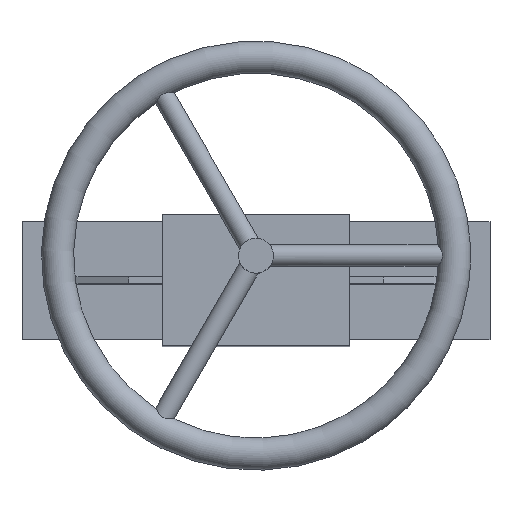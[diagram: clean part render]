
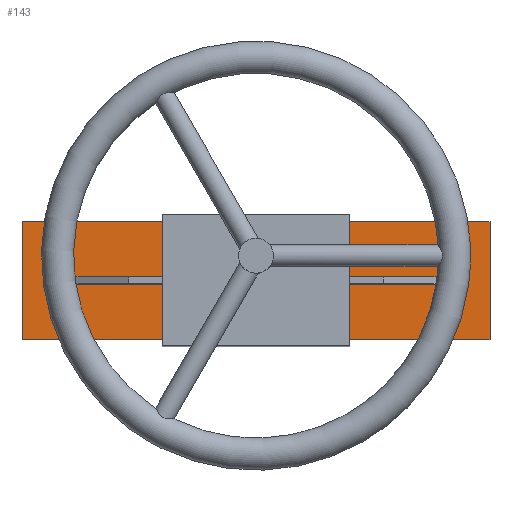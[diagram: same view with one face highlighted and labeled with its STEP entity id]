
A CAD part, top view. The second image highlights one B-rep face of the part: STEP entity #143.
In plain terms, the highlighted planar face has unit normal (0, 0, 1).
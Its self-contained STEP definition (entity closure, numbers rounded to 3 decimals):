
#143=ADVANCED_FACE('',(#1184,#1186,#1188),#1190,.T.);
#1184=FACE_BOUND('',#1185,.T.);
#1185=EDGE_LOOP('',(#2089,#2090,#2091,#2092,#2093,#2094,#2095,#2096));
#1186=FACE_BOUND('',#1187,.T.);
#1187=EDGE_LOOP('',(#2097,#2098,#2099,#2100));
#1188=FACE_BOUND('',#1189,.T.);
#1189=EDGE_LOOP('',(#2101));
#1190=PLANE('',#1191);
#1191=AXIS2_PLACEMENT_3D('',#1192,#1193,#1194);
#1192=CARTESIAN_POINT('',(0.,0.,280.));
#1193=DIRECTION('',(0.,0.,1.));
#1194=DIRECTION('',(1.,0.,0.));
#2089=ORIENTED_EDGE('',*,*,#2631,.F.);
#2090=ORIENTED_EDGE('',*,*,#2632,.T.);
#2091=ORIENTED_EDGE('',*,*,#2633,.T.);
#2092=ORIENTED_EDGE('',*,*,#2634,.T.);
#2093=ORIENTED_EDGE('',*,*,#2635,.F.);
#2094=ORIENTED_EDGE('',*,*,#2636,.T.);
#2095=ORIENTED_EDGE('',*,*,#2637,.T.);
#2096=ORIENTED_EDGE('',*,*,#2638,.T.);
#2097=ORIENTED_EDGE('',*,*,#2639,.F.);
#2098=ORIENTED_EDGE('',*,*,#2621,.F.);
#2099=ORIENTED_EDGE('',*,*,#2640,.F.);
#2100=ORIENTED_EDGE('',*,*,#2597,.F.);
#2101=ORIENTED_EDGE('',*,*,#2614,.F.);
#2597=EDGE_CURVE('',#2878,#2880,#2881,.T.);
#2614=EDGE_CURVE('',#2911,#2911,#2912,.F.);
#2621=EDGE_CURVE('',#2922,#2924,#2925,.F.);
#2631=EDGE_CURVE('',#2939,#2940,#2941,.T.);
#2632=EDGE_CURVE('',#2939,#2942,#2943,.T.);
#2633=EDGE_CURVE('',#2942,#2944,#2945,.T.);
#2634=EDGE_CURVE('',#2944,#2946,#2947,.T.);
#2635=EDGE_CURVE('',#2948,#2946,#2949,.T.);
#2636=EDGE_CURVE('',#2948,#2950,#2951,.T.);
#2637=EDGE_CURVE('',#2950,#2952,#2953,.T.);
#2638=EDGE_CURVE('',#2952,#2940,#2954,.T.);
#2639=EDGE_CURVE('',#2924,#2878,#2955,.T.);
#2640=EDGE_CURVE('',#2880,#2922,#2956,.T.);
#2878=VERTEX_POINT('',#3360);
#2880=VERTEX_POINT('',#3364);
#2881=LINE('',#3365,#3366);
#2911=VERTEX_POINT('',#3432);
#2912=CIRCLE('',#3433,13.);
#2922=VERTEX_POINT('',#3456);
#2924=VERTEX_POINT('',#3460);
#2925=LINE('',#3461,#3462);
#2939=VERTEX_POINT('',#3495);
#2940=VERTEX_POINT('',#3496);
#2941=LINE('',#3497,#3498);
#2942=VERTEX_POINT('',#3500);
#2943=LINE('',#3501,#3502);
#2944=VERTEX_POINT('',#3504);
#2945=LINE('',#3505,#3506);
#2946=VERTEX_POINT('',#3508);
#2947=LINE('',#3509,#3510);
#2948=VERTEX_POINT('',#3512);
#2949=LINE('',#3513,#3514);
#2950=VERTEX_POINT('',#3516);
#2951=LINE('',#3517,#3518);
#2952=VERTEX_POINT('',#3520);
#2953=LINE('',#3521,#3522);
#2954=LINE('',#3524,#3525);
#2955=LINE('',#3527,#3528);
#2956=LINE('',#3530,#3531);
#3360=CARTESIAN_POINT('',(-135.,-2.5,280.));
#3364=CARTESIAN_POINT('',(135.,-2.5,280.));
#3365=CARTESIAN_POINT('',(-135.,-2.5,280.));
#3366=VECTOR('',#3367,1.);
#3367=DIRECTION('',(1.,0.,0.));
#3432=CARTESIAN_POINT('',(0.,31.,280.));
#3433=AXIS2_PLACEMENT_3D('',#3434,#3435,#3436);
#3434=CARTESIAN_POINT('',(0.,18.,280.));
#3435=DIRECTION('',(-0.,-0.,-1.));
#3436=DIRECTION('',(0.,1.,0.));
#3456=CARTESIAN_POINT('',(135.,2.5,280.));
#3460=CARTESIAN_POINT('',(-135.,2.5,280.));
#3461=CARTESIAN_POINT('',(-135.,2.5,280.));
#3462=VECTOR('',#3463,1.);
#3463=DIRECTION('',(1.,0.,0.));
#3495=CARTESIAN_POINT('',(70.,-44.,280.));
#3496=CARTESIAN_POINT('',(-70.,-44.,280.));
#3497=CARTESIAN_POINT('',(70.,-44.,280.));
#3498=VECTOR('',#3499,1.);
#3499=DIRECTION('',(-1.,0.,0.));
#3500=CARTESIAN_POINT('',(174.5,-44.,280.));
#3501=CARTESIAN_POINT('',(70.,-44.,280.));
#3502=VECTOR('',#3503,1.);
#3503=DIRECTION('',(1.,0.,0.));
#3504=CARTESIAN_POINT('',(174.5,44.,280.));
#3505=CARTESIAN_POINT('',(174.5,-44.,280.));
#3506=VECTOR('',#3507,1.);
#3507=DIRECTION('',(0.,1.,0.));
#3508=CARTESIAN_POINT('',(70.,44.,280.));
#3509=CARTESIAN_POINT('',(174.5,44.,280.));
#3510=VECTOR('',#3511,1.);
#3511=DIRECTION('',(-1.,0.,0.));
#3512=CARTESIAN_POINT('',(-70.,44.,280.));
#3513=CARTESIAN_POINT('',(-70.,44.,280.));
#3514=VECTOR('',#3515,1.);
#3515=DIRECTION('',(1.,0.,0.));
#3516=CARTESIAN_POINT('',(-174.5,44.,280.));
#3517=CARTESIAN_POINT('',(-70.,44.,280.));
#3518=VECTOR('',#3519,1.);
#3519=DIRECTION('',(-1.,0.,0.));
#3520=CARTESIAN_POINT('',(-174.5,-44.,280.));
#3521=CARTESIAN_POINT('',(-174.5,44.,280.));
#3522=VECTOR('',#3523,1.);
#3523=DIRECTION('',(0.,-1.,0.));
#3524=CARTESIAN_POINT('',(-174.5,-44.,280.));
#3525=VECTOR('',#3526,1.);
#3526=DIRECTION('',(1.,0.,0.));
#3527=CARTESIAN_POINT('',(-135.,2.5,280.));
#3528=VECTOR('',#3529,1.);
#3529=DIRECTION('',(0.,-1.,0.));
#3530=CARTESIAN_POINT('',(135.,-2.5,280.));
#3531=VECTOR('',#3532,1.);
#3532=DIRECTION('',(0.,1.,0.));
